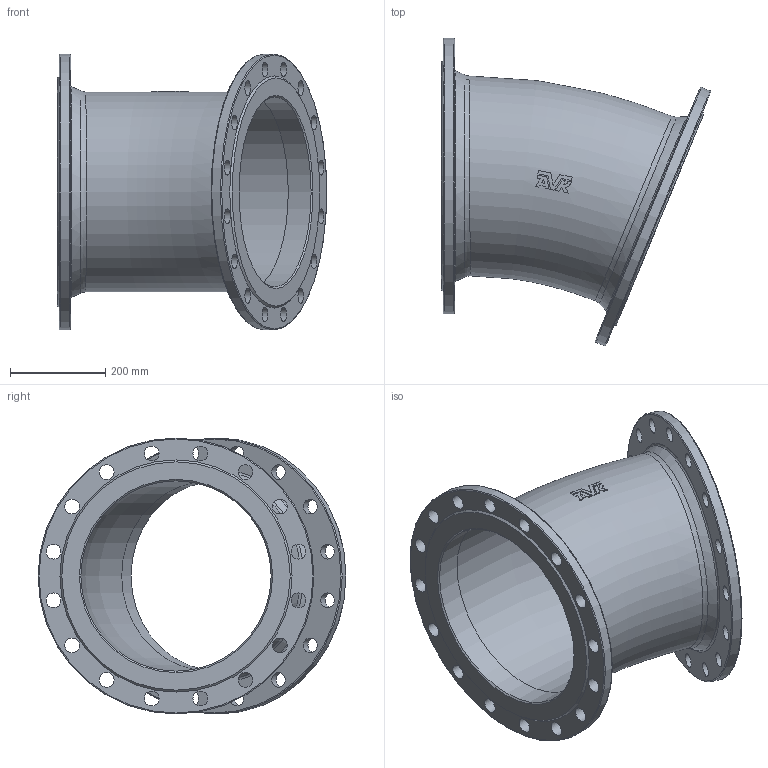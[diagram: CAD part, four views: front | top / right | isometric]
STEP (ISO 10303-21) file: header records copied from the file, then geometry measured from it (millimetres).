
FILE_DESCRIPTION (( 'STEP AP203' ), '1' );
FILE_NAME ('O_712_0210_DN400_1X_REV01.step', '2024-08-15T12:25:44', ( '' ), ( '' ), 'SwSTEP 2.0', 'SolidWorks 2022', '' );
FILE_SCHEMA (( 'CONFIG_CONTROL_DESIGN' ));
Length unit declared in the file: millimetre
Products named in the file (1): O_712_0210_DN400_1X_REV01
Bounding box: 566.47 x 647.23 x 580 mm (x, y, z)
Surface area: 2212494.8 mm2 (no closed solid volume)
Topology: 0 solids, 2 shells, 100 faces, 294 edges, 204 vertices
Faces by surface type: plane 41, cylinder 38, torus 13, cone 6, bspline 2
Full cylindrical faces by diameter (mm): 31 x32, 400 x2, 580 x2
Entity records: 5047 total; most frequent: CARTESIAN_POINT 2702, DIRECTION 411, ORIENTED_EDGE 404, EDGE_LOOP 227, EDGE_CURVE 203, AXIS2_PLACEMENT_3D 187, VERTEX_POINT 166, FACE_OUTER_BOUND 147
